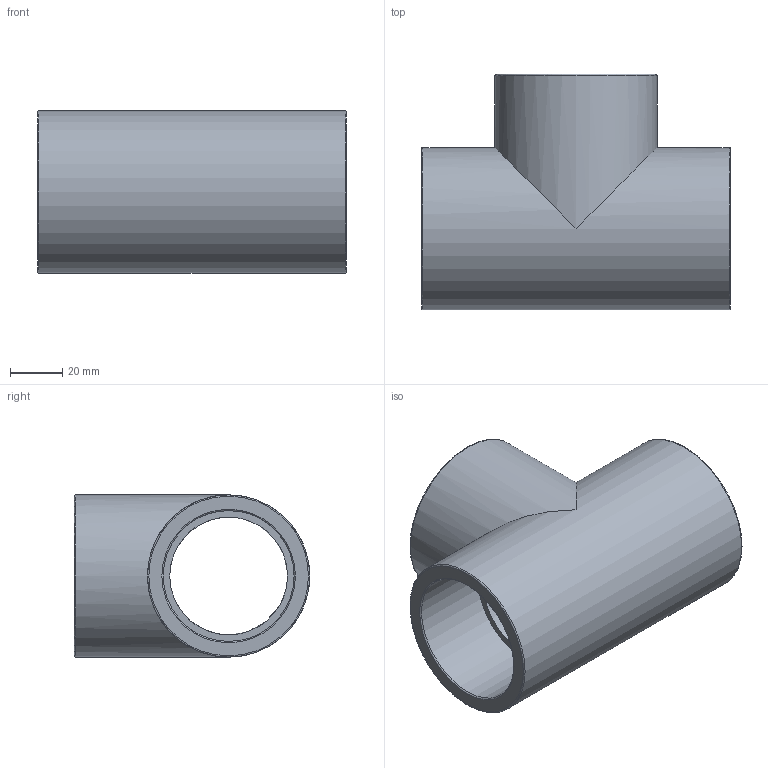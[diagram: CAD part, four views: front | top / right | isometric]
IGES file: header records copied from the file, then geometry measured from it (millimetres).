
Global section: file name: 050400050.ipt; native system: Autodesk Inventor 2015; preprocessor: unknown; author: KIM; date: 20171207.164434; units: millimetre
Bounding box: 118 x 90 x 62 mm (x, y, z)
Volume: 169049.9 mm3; surface area: 53280.9 mm2
Topology: 1 solids, 1 shells, 19 faces, 60 edges, 46 vertices
Faces by surface type: revolution 11, plane 6, cylinder 2
Full cylindrical faces by diameter (mm): 62 x2
